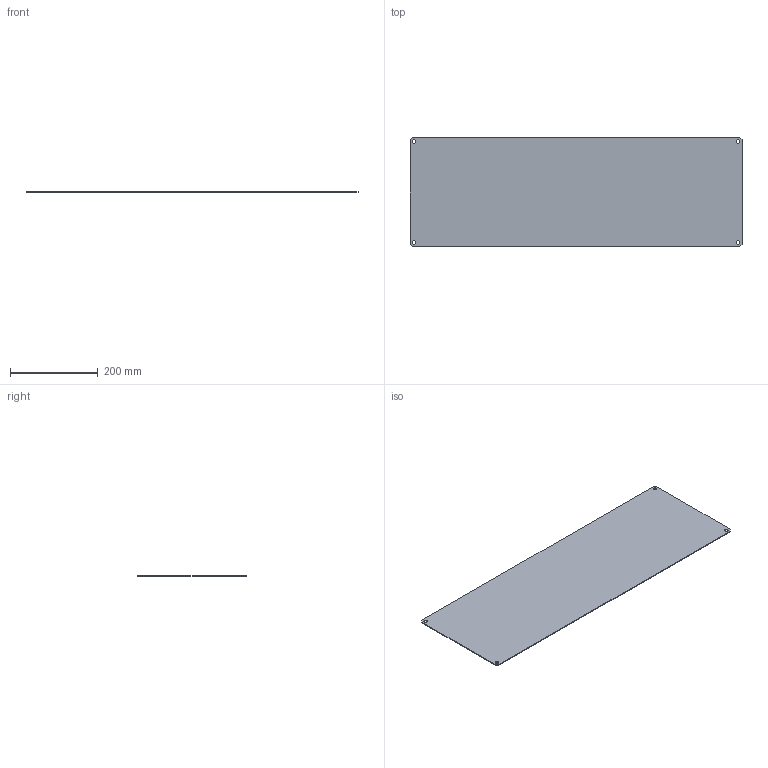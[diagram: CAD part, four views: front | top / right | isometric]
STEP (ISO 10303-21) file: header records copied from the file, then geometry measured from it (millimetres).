
FILE_DESCRIPTION (( 'STEP AP203' ), '1' );
FILE_NAME ('CN5083MP.STEP', '2021-07-01T11:56:12', ( 'vlan4e' ), ( '' ), 'SwSTEP 2.0', 'SolidWorks 2020', '' );
FILE_SCHEMA (( 'CONFIG_CONTROL_DESIGN' ));
Length unit declared in the file: millimetre
Products named in the file (1): CN5083MP
Bounding box: 756 x 248 x 2 mm (x, y, z)
Volume: 374473.9 mm3; surface area: 378667.5 mm2
Topology: 1 solids, 1 shells, 18 faces, 48 edges, 32 vertices
Faces by surface type: plane 10, cylinder 8
Entity records: 661 total; most frequent: DIRECTION 102, CARTESIAN_POINT 99, ORIENTED_EDGE 96, EDGE_CURVE 48, AXIS2_PLACEMENT_3D 35, VECTOR 32, LINE 32, VERTEX_POINT 32
